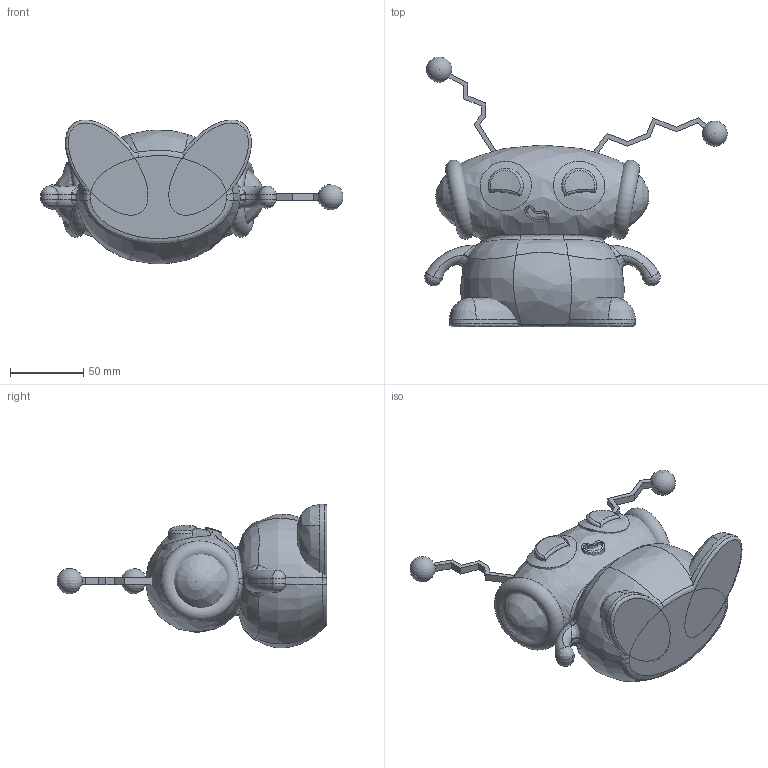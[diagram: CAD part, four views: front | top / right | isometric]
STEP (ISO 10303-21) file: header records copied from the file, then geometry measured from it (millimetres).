
FILE_DESCRIPTION(/* description */ (''),/* implementation_level */ '2;1');
FILE_NAME(/* name */ 'C:\Users\andre\OneDrive\Documents\SQA\Item Writer\Concepts\3\STEP Files\Robot\Robot.stp',/* time_stamp */ '2019-05-24T17:55:33+01:00',/* author */ ('andre'),/* organization */ (''),/* preprocessor_version */ 'ST-DEVELOPER v16.13',/* originating_system */ 'Autodesk Inventor 2018',/* authorisation */ '');
FILE_SCHEMA (('AUTOMOTIVE_DESIGN { 1 0 10303 214 3 1 1 }'));
Length unit declared in the file: millimetre
Products named in the file (9): Assembly1; Part1; Part2; Part4; Part5; Part6; Part7; Part8; Part9
Assembly tree (8 placements, depth 2):
  Assembly1
    Part1
    Part2
    Part4
    Part5
    Part6
    Part7
    Part8
    Part9
Bounding box: 207 x 184.61 x 98.36 mm (x, y, z)
Volume: 1004436.9 mm3; surface area: 102071.3 mm2
Topology: 14 solids, 14 shells, 166 faces, 392 edges, 240 vertices
Faces by surface type: bspline 88, plane 48, cylinder 18, torus 10, sphere 2
Entity records: 9307 total; most frequent: CARTESIAN_POINT 5561, ORIENTED_EDGE 764, DIRECTION 636, EDGE_CURVE 382, AXIS2_PLACEMENT_3D 265, VERTEX_POINT 240, EDGE_LOOP 168, FACE_OUTER_BOUND 166
